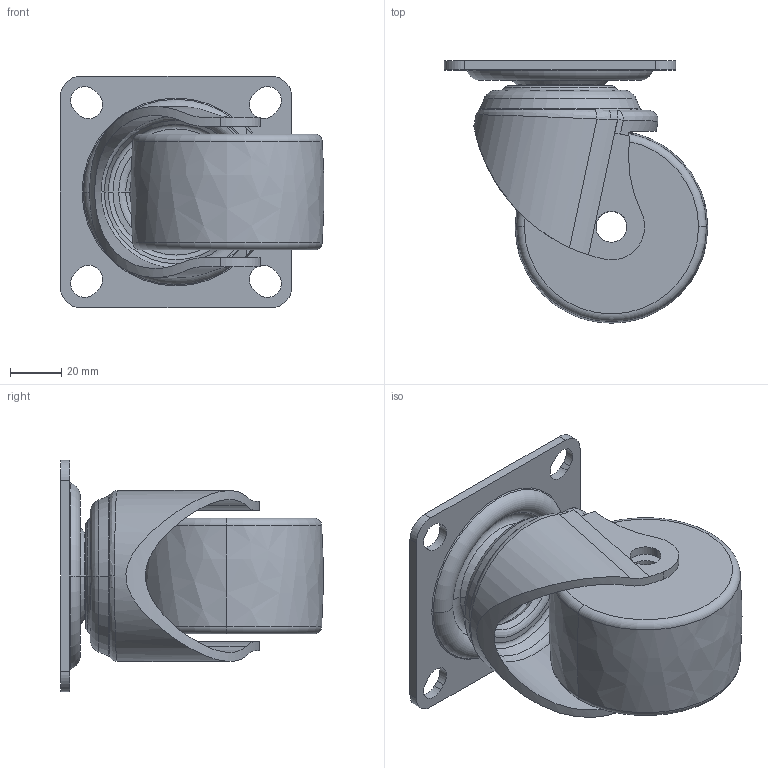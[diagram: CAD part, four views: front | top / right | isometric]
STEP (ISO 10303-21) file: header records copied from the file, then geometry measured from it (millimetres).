
FILE_DESCRIPTION((''),'2;1');
FILE_NAME('M45313-M453-86A_ASM','2024-01-13T',('Lenovo'),(''),'PRO/ENGINEER BY PARAMETRIC TECHNOLOGY CORPORATION, 2010280','PRO/ENGINEER BY PARAMETRIC TECHNOLOGY CORPORATION, 2010280','');
FILE_SCHEMA(('CONFIG_CONTROL_DESIGN'));
Length unit declared in the file: millimetre
Products named in the file (4): M4533-311; M4530-201; M453-986A; M45313-M453-86A_ASM
Assembly tree (3 placements, depth 2):
  M45313-M453-86A_ASM
    M4533-311
    M4530-201
    M453-986A
Bounding box: 102.43 x 101.93 x 90 mm (x, y, z)
Volume: 252220.4 mm3; surface area: 59270.8 mm2
Topology: 3 solids, 3 shells, 140 faces, 346 edges, 213 vertices
Faces by surface type: cylinder 41, torus 38, plane 34, cone 14, bspline 11, sphere 2
Entity records: 5154 total; most frequent: CARTESIAN_POINT 1698, DIRECTION 748, ORIENTED_EDGE 692, EDGE_CURVE 346, AXIS2_PLACEMENT_3D 316, VERTEX_POINT 213, CIRCLE 180, EDGE_LOOP 157
